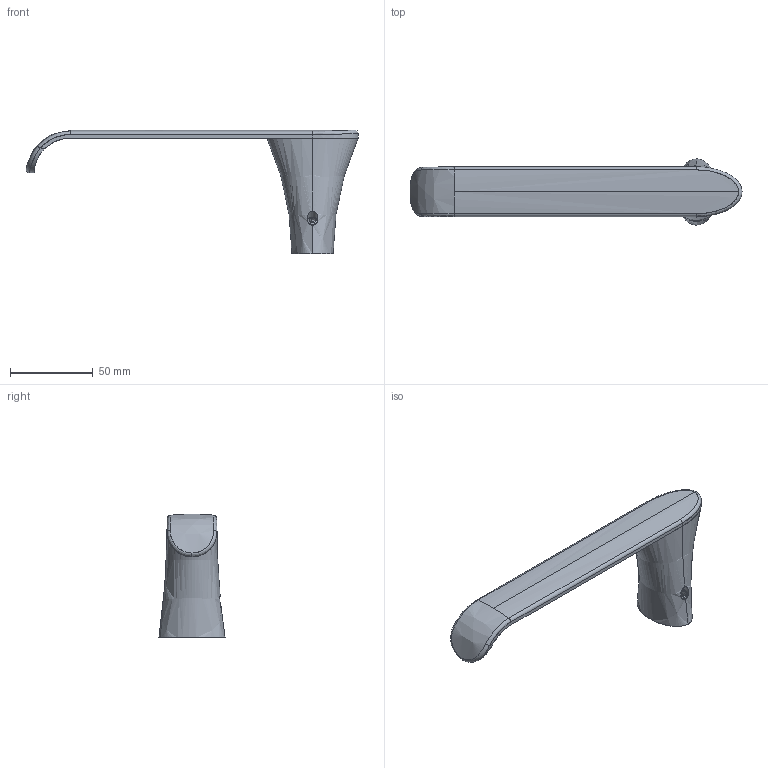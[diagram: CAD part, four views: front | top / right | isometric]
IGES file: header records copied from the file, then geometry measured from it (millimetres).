
Start section: SolidWorks IGES file using analytic representation for surfaces
Global section: file name: G:\Projects\New project\For Marketing\IGS\IGS\2015-12-25\764010001VW.IGS; native system: SolidWorks 2010; preprocessor: SolidWorks 2010; author: linda; date: 151218.142541; units: millimetre
Bounding box: 200.82 x 40 x 75 mm (x, y, z)
Surface area: 25315.4 mm2 (no closed solid volume)
Topology: 0 solids, 0 shells, 72 faces, 1343 edges, 1341 vertices
Faces by surface type: bspline 42, revolution 30
